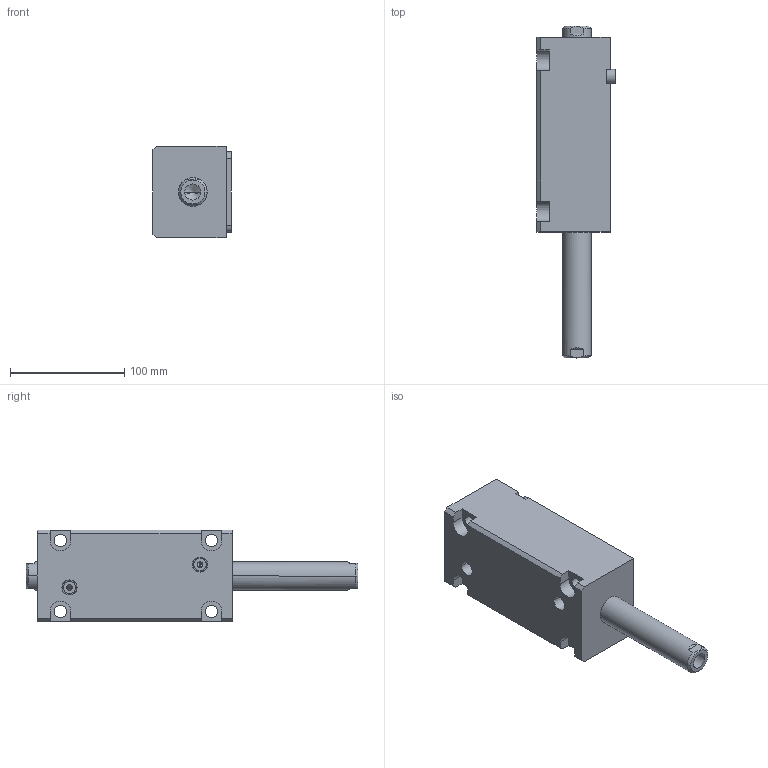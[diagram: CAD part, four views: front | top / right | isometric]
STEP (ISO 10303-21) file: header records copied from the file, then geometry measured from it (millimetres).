
FILE_DESCRIPTION (( 'STEP AP214' ), '1' );
FILE_NAME ('chtb-lw40x100_asm.STEP', '2018-06-05T02:57:27', ( 'Windows' ), ( 'Microsoft' ), 'SwSTEP 2.0', 'SolidWorks 2015', '' );
FILE_SCHEMA (( 'AUTOMOTIVE_DESIGN' ));
Length unit declared in the file: millimetre
Products named in the file (5): CHTB-SD40QG; CHTB-SW40X100NHSG; CHTB-LW40X100NBT; CHTB-LA40PJ; chtb-lw40x100_asm
Assembly tree (4 placements, depth 2):
  chtb-lw40x100_asm
    CHTB-LA40PJ
    CHTB-LW40X100NBT
    CHTB-SW40X100NHSG
    CHTB-SD40QG
Bounding box: 68.5 x 290 x 80 mm (x, y, z)
Volume: 808523 mm3; surface area: 129051.3 mm2
Topology: 4 solids, 4 shells, 172 faces, 462 edges, 304 vertices
Faces by surface type: cylinder 77, plane 52, cone 17, bspline 14, torus 12
Entity records: 10654 total; most frequent: CARTESIAN_POINT 6188, ORIENTED_EDGE 904, DIRECTION 853, EDGE_CURVE 452, AXIS2_PLACEMENT_3D 340, VERTEX_POINT 304, EDGE_LOOP 204, CIRCLE 175
